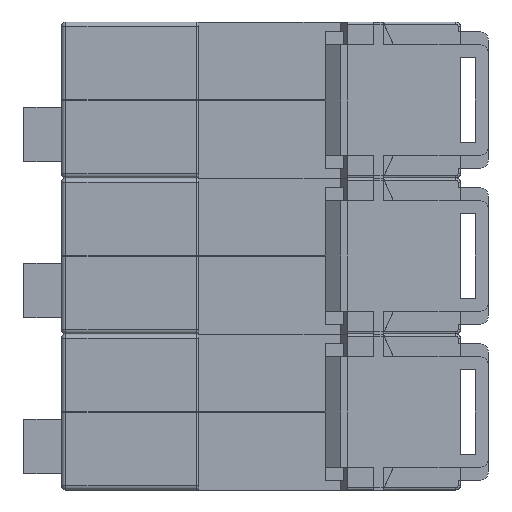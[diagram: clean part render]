
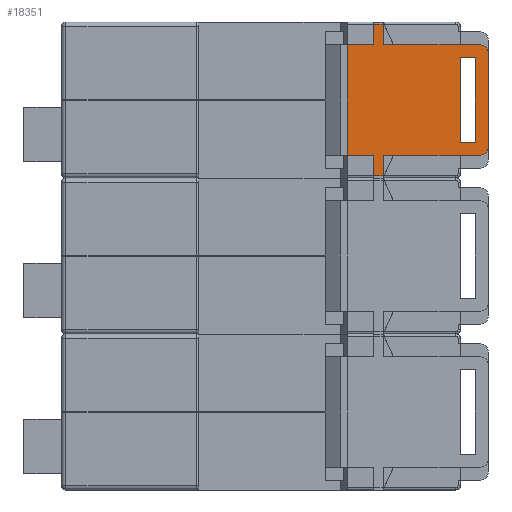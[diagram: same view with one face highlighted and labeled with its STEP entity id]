
A CAD part, front view. The second image highlights one B-rep face of the part: STEP entity #18351.
In plain terms, the highlighted planar face has unit normal (0, -1, 0).
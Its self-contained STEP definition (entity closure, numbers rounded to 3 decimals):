
#149=FACE_BOUND('',#6771,.T.);
#842=LINE('',#27327,#2948);
#846=LINE('',#27336,#2952);
#850=LINE('',#27343,#2956);
#856=LINE('',#27360,#2962);
#1070=LINE('',#27833,#3176);
#1076=LINE('',#27846,#3182);
#1082=LINE('',#27859,#3188);
#1086=LINE('',#27866,#3192);
#1089=LINE('',#27871,#3195);
#1102=LINE('',#27901,#3208);
#1105=LINE('',#27908,#3211);
#1111=LINE('',#27921,#3217);
#1113=LINE('',#27925,#3219);
#1121=LINE('',#27941,#3227);
#1127=LINE('',#27955,#3233);
#1131=LINE('',#27961,#3237);
#1132=LINE('',#27963,#3238);
#1133=LINE('',#27965,#3239);
#1134=LINE('',#27966,#3240);
#1135=LINE('',#27967,#3241);
#2948=VECTOR('',#21833,10.);
#2952=VECTOR('',#21839,10.);
#2956=VECTOR('',#21845,10.);
#2962=VECTOR('',#21861,10.);
#3176=VECTOR('',#22301,10.);
#3182=VECTOR('',#22315,10.);
#3188=VECTOR('',#22329,10.);
#3192=VECTOR('',#22335,10.);
#3195=VECTOR('',#22340,10.);
#3208=VECTOR('',#22369,10.);
#3211=VECTOR('',#22380,10.);
#3217=VECTOR('',#22392,10.);
#3219=VECTOR('',#22396,10.);
#3227=VECTOR('',#22412,10.);
#3233=VECTOR('',#22422,10.);
#3237=VECTOR('',#22430,10.);
#3238=VECTOR('',#22433,10.);
#3239=VECTOR('',#22434,10.);
#3240=VECTOR('',#22435,10.);
#3241=VECTOR('',#22436,10.);
#4891=PLANE('',#19749);
#5728=FACE_OUTER_BOUND('',#6770,.T.);
#6770=EDGE_LOOP('',(#13927,#13928,#13929,#13930,#13931,#13932,#13933,#13934,
#13935,#13936,#13937,#13938,#13939,#13940,#13941,#13942,#13943,#13944));
#6771=EDGE_LOOP('',(#13945,#13946,#13947,#13948));
#7751=CIRCLE('',#19717,2.);
#7752=CIRCLE('',#19720,2.);
#8441=VERTEX_POINT('',#27325);
#8442=VERTEX_POINT('',#27326);
#8445=VERTEX_POINT('',#27334);
#8446=VERTEX_POINT('',#27335);
#8448=VERTEX_POINT('',#27342);
#8453=VERTEX_POINT('',#27358);
#8454=VERTEX_POINT('',#27359);
#8599=VERTEX_POINT('',#27830);
#8600=VERTEX_POINT('',#27832);
#8602=VERTEX_POINT('',#27841);
#8603=VERTEX_POINT('',#27845);
#8606=VERTEX_POINT('',#27858);
#8608=VERTEX_POINT('',#27864);
#8609=VERTEX_POINT('',#27869);
#8617=VERTEX_POINT('',#27898);
#8618=VERTEX_POINT('',#27900);
#8622=VERTEX_POINT('',#27920);
#8623=VERTEX_POINT('',#27924);
#8627=VERTEX_POINT('',#27938);
#8632=VERTEX_POINT('',#27953);
#8633=VERTEX_POINT('',#27954);
#8634=VERTEX_POINT('',#27964);
#10316=EDGE_CURVE('',#8441,#8442,#842,.T.);
#10320=EDGE_CURVE('',#8445,#8446,#846,.T.);
#10324=EDGE_CURVE('',#8445,#8448,#850,.T.);
#10332=EDGE_CURVE('',#8453,#8454,#856,.T.);
#10572=EDGE_CURVE('',#8599,#8600,#1070,.T.);
#10577=EDGE_CURVE('',#8602,#8441,#7751,.T.);
#10579=EDGE_CURVE('',#8603,#8602,#1076,.T.);
#10581=EDGE_CURVE('',#8454,#8603,#7752,.T.);
#10586=EDGE_CURVE('',#8606,#8448,#1082,.T.);
#10590=EDGE_CURVE('',#8608,#8453,#1086,.T.);
#10593=EDGE_CURVE('',#8609,#8599,#1089,.T.);
#10607=EDGE_CURVE('',#8617,#8618,#1102,.T.);
#10611=EDGE_CURVE('',#8600,#8617,#1105,.T.);
#10617=EDGE_CURVE('',#8622,#8608,#1111,.T.);
#10619=EDGE_CURVE('',#8623,#8622,#1113,.T.);
#10628=EDGE_CURVE('',#8442,#8627,#1121,.T.);
#10634=EDGE_CURVE('',#8632,#8633,#1127,.T.);
#10638=EDGE_CURVE('',#8627,#8632,#1131,.T.);
#10639=EDGE_CURVE('',#8618,#8623,#1132,.T.);
#10640=EDGE_CURVE('',#8609,#8634,#1133,.T.);
#10641=EDGE_CURVE('',#8633,#8634,#1134,.T.);
#10642=EDGE_CURVE('',#8446,#8606,#1135,.T.);
#13927=ORIENTED_EDGE('',*,*,#10577,.F.);
#13928=ORIENTED_EDGE('',*,*,#10579,.F.);
#13929=ORIENTED_EDGE('',*,*,#10581,.F.);
#13930=ORIENTED_EDGE('',*,*,#10332,.F.);
#13931=ORIENTED_EDGE('',*,*,#10590,.F.);
#13932=ORIENTED_EDGE('',*,*,#10617,.F.);
#13933=ORIENTED_EDGE('',*,*,#10619,.F.);
#13934=ORIENTED_EDGE('',*,*,#10639,.F.);
#13935=ORIENTED_EDGE('',*,*,#10607,.F.);
#13936=ORIENTED_EDGE('',*,*,#10611,.F.);
#13937=ORIENTED_EDGE('',*,*,#10572,.F.);
#13938=ORIENTED_EDGE('',*,*,#10593,.F.);
#13939=ORIENTED_EDGE('',*,*,#10640,.T.);
#13940=ORIENTED_EDGE('',*,*,#10641,.F.);
#13941=ORIENTED_EDGE('',*,*,#10634,.F.);
#13942=ORIENTED_EDGE('',*,*,#10638,.F.);
#13943=ORIENTED_EDGE('',*,*,#10628,.F.);
#13944=ORIENTED_EDGE('',*,*,#10316,.F.);
#13945=ORIENTED_EDGE('',*,*,#10320,.T.);
#13946=ORIENTED_EDGE('',*,*,#10642,.T.);
#13947=ORIENTED_EDGE('',*,*,#10586,.T.);
#13948=ORIENTED_EDGE('',*,*,#10324,.F.);
#18351=ADVANCED_FACE('',(#5728,#149),#4891,.T.);
#19717=AXIS2_PLACEMENT_3D('',#27842,#22310,#22311);
#19720=AXIS2_PLACEMENT_3D('',#27849,#22319,#22320);
#19749=AXIS2_PLACEMENT_3D('',#27962,#22431,#22432);
#21833=DIRECTION('',(-1.,0.,0.));
#21839=DIRECTION('',(-1.,0.,0.));
#21845=DIRECTION('',(0.,0.,1.));
#21861=DIRECTION('',(1.,0.,0.));
#22301=DIRECTION('',(0.,0.,1.));
#22310=DIRECTION('center_axis',(0.,1.,0.));
#22311=DIRECTION('ref_axis',(0.707,0.,-0.707));
#22315=DIRECTION('',(0.,0.,-1.));
#22319=DIRECTION('center_axis',(0.,1.,0.));
#22320=DIRECTION('ref_axis',(0.707,0.,0.707));
#22329=DIRECTION('',(1.,0.,0.));
#22335=DIRECTION('',(1.,0.,0.));
#22340=DIRECTION('',(-1.,0.,0.));
#22369=DIRECTION('',(0.,0.,1.));
#22380=DIRECTION('',(1.,0.,0.));
#22392=DIRECTION('',(1.,0.,0.));
#22396=DIRECTION('',(0.,0.,-1.));
#22412=DIRECTION('',(-1.,0.,0.));
#22422=DIRECTION('',(0.,0.,-1.));
#22430=DIRECTION('',(-1.,0.,0.));
#22431=DIRECTION('center_axis',(0.,-1.,0.));
#22432=DIRECTION('ref_axis',(0.,0.,-1.));
#22433=DIRECTION('',(1.,0.,0.));
#22434=DIRECTION('',(0.,0.,-1.));
#22435=DIRECTION('',(-1.,0.,0.));
#22436=DIRECTION('',(0.,0.,1.));
#27325=CARTESIAN_POINT('',(94.3,0.05,5.1));
#27326=CARTESIAN_POINT('',(90.,0.05,5.1));
#27327=CARTESIAN_POINT('',(88.116,0.05,5.1));
#27334=CARTESIAN_POINT('',(93.4,0.05,8.1));
#27335=CARTESIAN_POINT('',(89.95,0.05,8.1));
#27336=CARTESIAN_POINT('',(84.966,0.05,8.1));
#27342=CARTESIAN_POINT('',(93.4,0.05,27.1));
#27343=CARTESIAN_POINT('',(93.4,0.05,12.85));
#27358=CARTESIAN_POINT('',(90.,0.05,30.1));
#27359=CARTESIAN_POINT('',(94.3,0.05,30.1));
#27360=CARTESIAN_POINT('',(88.116,0.05,30.1));
#27830=CARTESIAN_POINT('',(64.5,0.05,5.1));
#27832=CARTESIAN_POINT('',(64.5,0.05,30.1));
#27833=CARTESIAN_POINT('',(64.5,0.05,33.05));
#27841=CARTESIAN_POINT('',(96.3,0.05,7.1));
#27842=CARTESIAN_POINT('Origin',(94.3,0.05,7.1));
#27845=CARTESIAN_POINT('',(96.3,0.05,28.1));
#27846=CARTESIAN_POINT('',(96.3,0.05,17.6));
#27849=CARTESIAN_POINT('Origin',(94.3,0.05,28.1));
#27858=CARTESIAN_POINT('',(89.95,0.05,27.1));
#27859=CARTESIAN_POINT('',(84.966,0.05,27.1));
#27864=CARTESIAN_POINT('',(74.9,0.05,30.1));
#27866=CARTESIAN_POINT('',(90.,0.05,30.1));
#27869=CARTESIAN_POINT('',(70.4,0.05,5.1));
#27871=CARTESIAN_POINT('',(90.,0.05,5.1));
#27898=CARTESIAN_POINT('',(70.4,0.05,30.1));
#27900=CARTESIAN_POINT('',(70.4,0.05,34.7));
#27901=CARTESIAN_POINT('',(70.4,0.05,34.7));
#27908=CARTESIAN_POINT('',(90.,0.05,30.1));
#27920=CARTESIAN_POINT('',(72.6,0.05,30.1));
#27921=CARTESIAN_POINT('',(90.,0.05,30.1));
#27924=CARTESIAN_POINT('',(72.6,0.05,34.7));
#27925=CARTESIAN_POINT('',(72.6,0.05,31.25));
#27938=CARTESIAN_POINT('',(74.9,0.05,5.1));
#27941=CARTESIAN_POINT('',(90.,0.05,5.1));
#27953=CARTESIAN_POINT('',(72.6,0.05,5.1));
#27954=CARTESIAN_POINT('',(72.6,0.05,0.5));
#27955=CARTESIAN_POINT('',(72.6,0.05,3.95));
#27961=CARTESIAN_POINT('',(90.,0.05,5.1));
#27962=CARTESIAN_POINT('Origin',(79.931,0.05,17.6));
#27963=CARTESIAN_POINT('',(71.5,0.05,34.7));
#27964=CARTESIAN_POINT('',(70.4,0.05,0.5));
#27965=CARTESIAN_POINT('',(70.4,0.05,0.5));
#27966=CARTESIAN_POINT('',(71.5,0.05,0.5));
#27967=CARTESIAN_POINT('',(89.95,0.05,17.6));
